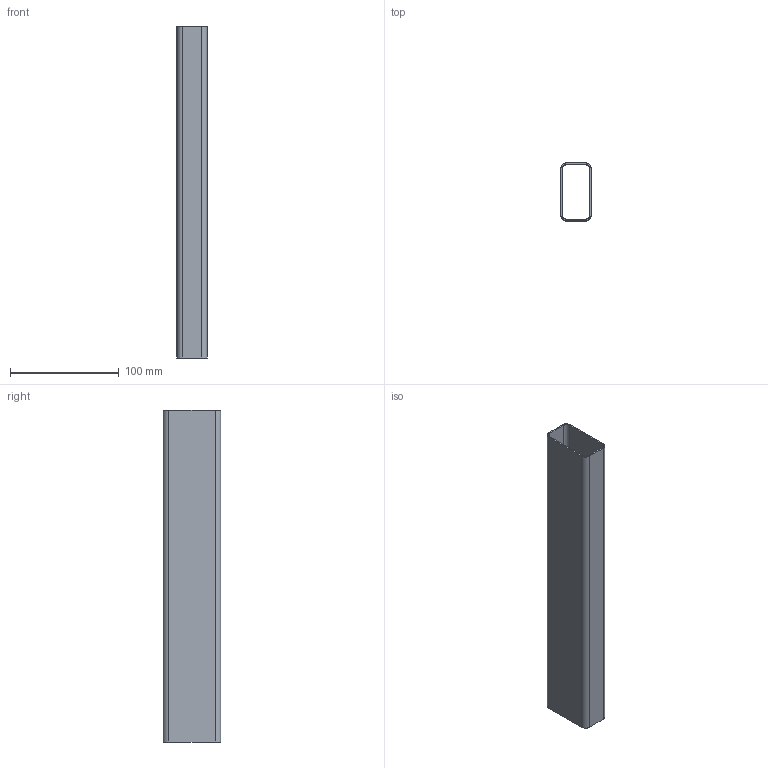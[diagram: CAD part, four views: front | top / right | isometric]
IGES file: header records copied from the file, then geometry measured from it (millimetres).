
Start section: SolidWorks IGES file using analytic representation for surfaces
Global section: file name: O:\Database\Dumb Solids - Coupling & Gussets\DRP-002-0001-04.IGS; native system: SolidWorks 2011; preprocessor: SolidWorks 2011; author: mbush2; date: 111207.162033; units: inch
Bounding box: 27.69 x 52.83 x 304.8 mm (x, y, z)
Surface area: 91045.8 mm2 (no closed solid volume)
Topology: 0 solids, 0 shells, 18 faces, 208 edges, 208 vertices
Faces by surface type: bspline 10, revolution 8
